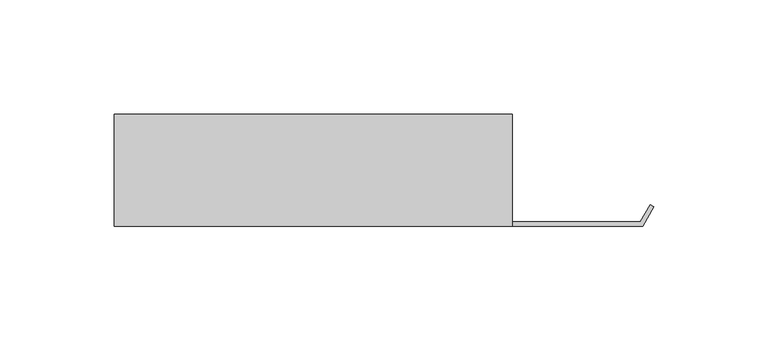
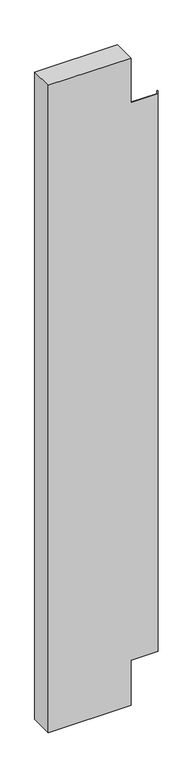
"""IFC4 building model written with IfcOpenShell, lengths in millimetres: proxy geometry, AERO^OFFICE 3_6x48 WIRE WALL-WIRE TROUGH."""

from ifc_helpers import new_model, si_unit, origin, place, context, project, spatial, faceted_brep, source, transform, mapped, element, save


def generic_models_b191f178(model_context):
    return source(origin(), model_context, "Body", "Brep", [
        faceted_brep([(1.89738, 49.2125, -100.0125), (1.89738, 49.2125, 1344.6125), (1.89738, 0.0, 1344.6125), (1.89738, 0.0, 1244.6), (1.89738, 1.89738, 1244.6), (1.89738, 1.89738, 0.0), (1.89738, 0.0, 0.0), (1.89738, 0.0, -100.0125), (-172.72762, 0.0, -100.0125), (-172.72762, 0.0, 1344.6125), (-172.72762, 49.2125, 1344.6125), (-172.72762, 49.2125, -100.0125), (57.9519271, 1.89738, 0.0), (57.9519271, 1.89738, 1244.6), (62.3557356, 9.525, 0.0), (62.3557356, 9.525, 1244.6), (63.9989149, 8.57631, 0.0), (63.9989149, 8.57631, 1244.6), (59.04738, 0.0, 0.0), (59.04738, 0.0, 1244.6)], [[[0, 1, 2, 3, 4, 5, 6, 7]], [[8, 9, 10, 11]], [[11, 0, 7, 8]], [[9, 2, 1, 10]], [[12, 5, 4, 13]], [[14, 12, 13, 15]], [[16, 14, 15, 17]], [[18, 16, 17, 19]], [[9, 8, 7, 6, 18, 19, 3, 2]], [[11, 10, 1, 0]], [[4, 3, 19, 17, 15, 13]], [[6, 5, 12, 14, 16, 18]]]),
    ])


if __name__ == "__main__":
    model = new_model("IFC4")
    model_context = context("Model", 3, world=origin())
    ifc_project = project(units=[si_unit("LENGTHUNIT", "METRE", prefix="MILLI")], contexts=[model_context])
    site = spatial("IfcSite", under=ifc_project)
    building = spatial("IfcBuilding", under=site)
    placement = place(None, origin())
    generic_models_shape = generic_models_b191f178(model_context)
    element("IfcBuildingElementProxy", 1, Name="AERO^OFFICE 3_6x48 WIRE WALL-WIRE TROUGH", ObjectType="AERO^OFFICE 3_6x48 WIRE WALL-WIRE TROUGH", at=placement, inside=building, context=model_context, shape_type="MappedRepresentation", body=[
        mapped(generic_models_shape, transform((0.0, 0.0, 0.0), x_axis=(1.0, 0.0, 0.0), y_axis=(0.0, 1.0, 0.0), z_axis=(0.0, 0.0, 1.0))),
    ])
    save(model, "model.ifc")
